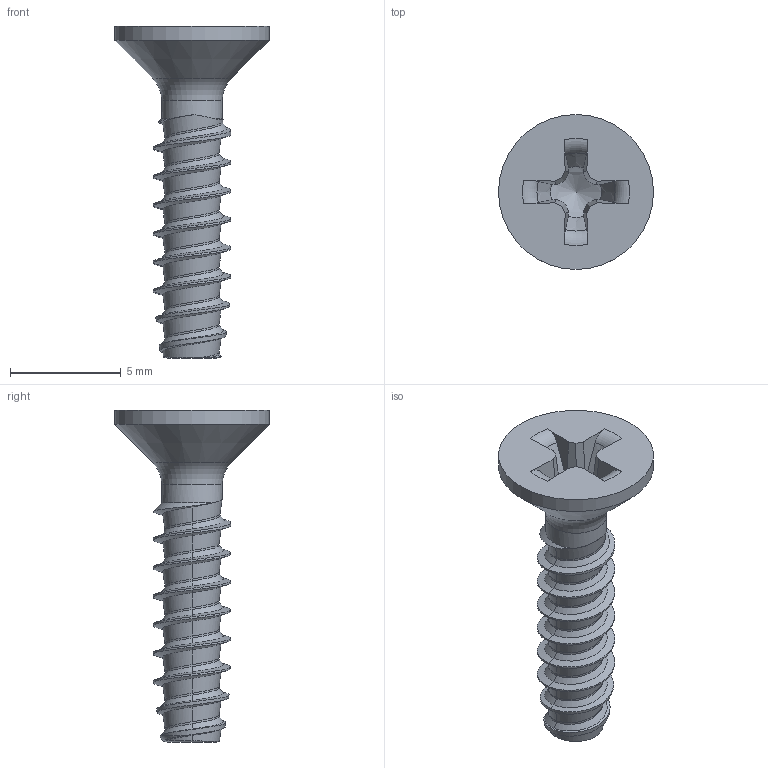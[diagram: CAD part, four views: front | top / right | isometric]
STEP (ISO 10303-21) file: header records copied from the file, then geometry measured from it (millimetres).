
FILE_DESCRIPTION(/* description */ (''),/* implementation_level */ '2;1');
FILE_NAME(/* name */ 'KN6041-STSplus-35x15-H2.step',/* time_stamp */ '2017-10-12T11:44:20+02:00',/* author */ (''),/* organization */ (''),/* preprocessor_version */ 'ST-DEVELOPER v16',/* originating_system */ 'SIEMENS PLM Software NX 10.0',/* authorisation */ '');
FILE_SCHEMA (('AUTOMOTIVE_DESIGN { 1 0 10303 214 3 1 1 1 }'));
Length unit declared in the file: millimetre
Products named in the file (1): KN6041-STSplus-35x15-H2
Bounding box: 7 x 7 x 15 mm (x, y, z)
Volume: 129.7 mm3; surface area: 270.1 mm2
Topology: 1 solids, 1 shells, 82 faces, 205 edges, 125 vertices
Faces by surface type: bspline 47, plane 18, cone 8, torus 6, cylinder 3
Full cylindrical faces by diameter (mm): 2.73 x1, 7 x1
Entity records: 4879 total; most frequent: CARTESIAN_POINT 3301, ORIENTED_EDGE 388, EDGE_CURVE 194, DIRECTION 184, VERTEX_POINT 121, B_SPLINE_CURVE_WITH_KNOTS 103, EDGE_LOOP 88, ADVANCED_FACE 82
